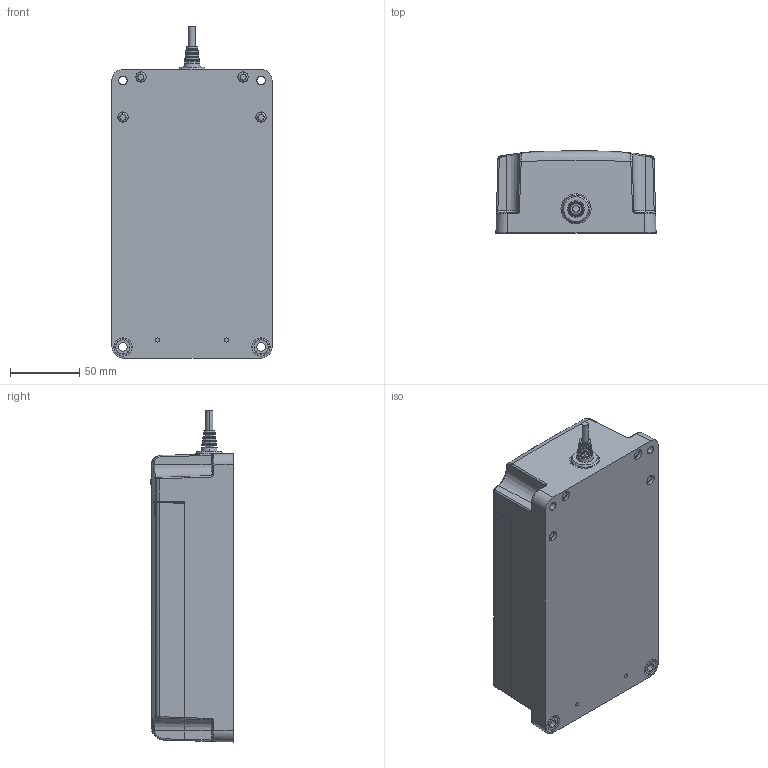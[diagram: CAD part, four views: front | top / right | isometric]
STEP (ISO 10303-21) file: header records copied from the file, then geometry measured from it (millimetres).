
FILE_DESCRIPTION (( 'STEP AP203' ), '1' );
FILE_NAME ('TBB4.STEP', '2012-08-24T04:14:15', ( 'Jeremy' ), ( '' ), 'SwSTEP 2.0', 'SolidWorks 2010', '' );
FILE_SCHEMA (( 'CONFIG_CONTROL_DESIGN' ));
Length unit declared in the file: millimetre
Products named in the file (1): TBB4
Bounding box: 116 x 59.6 x 240.5 mm (x, y, z)
Volume: 1342075.9 mm3; surface area: 88391.6 mm2
Topology: 1 solids, 4 shells, 455 faces, 1090 edges, 681 vertices
Faces by surface type: plane 156, cylinder 140, bspline 99, cone 35, torus 25
Entity records: 25687 total; most frequent: CARTESIAN_POINT 15689, ORIENTED_EDGE 2180, DIRECTION 1928, EDGE_CURVE 1090, AXIS2_PLACEMENT_3D 767, VERTEX_POINT 681, EDGE_LOOP 501, FACE_OUTER_BOUND 455
